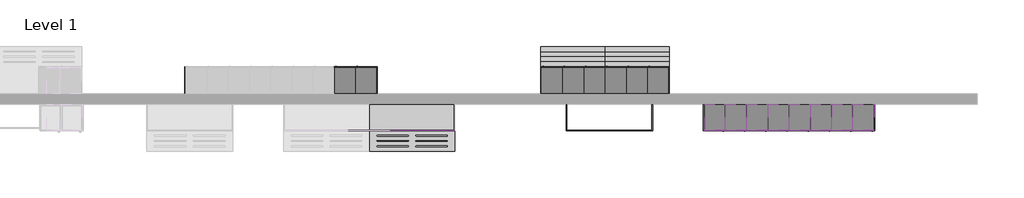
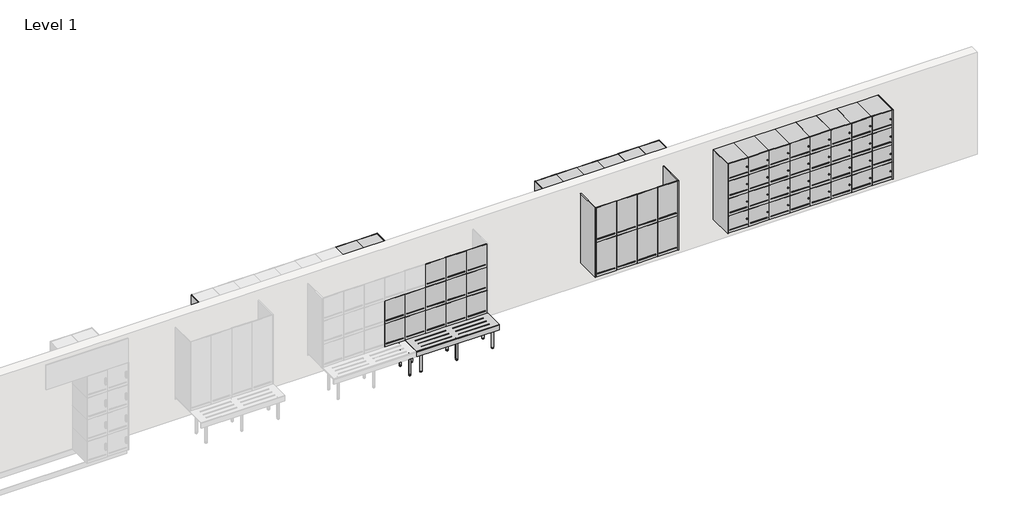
# One storey, part 3 of 3: 131 furniture elements.
"""IFC4 building model written with IfcOpenShell, lengths in millimetres."""

from ifc_helpers import new_model, si_unit, origin, place, context, project, spatial, transform, mapped, element, save
from components import furniture_7293fc8f, furniture_05545089, furniture_83d2262f, furniture_6c30b95b, standard_2dcb62da, standard_f5ae554c, standard_45df0485, standard_98e0e482, standard_13bdcb3e, standard_06cb4884, standard_31d623df, standard_40445af7, standard_a614ba5f, standard_bf09c246, standard_42a54a5f, standard_04b66620

model = new_model("IFC4")

# Units and contexts
model_context = context("Model", 3, world=origin())
ifc_project = project(units=[si_unit("LENGTHUNIT", "METRE", prefix="MILLI")], contexts=[model_context])

# Site, building, storey
site = spatial("IfcSite", under=ifc_project)
building = spatial("IfcBuilding", under=site)
storey = spatial("IfcBuildingStorey", under=building, Name="Level 1", Elevation=0.0)

# Furniture
placement = place(None, origin())
furniture_shape = furniture_7293fc8f(model_context)
element("IfcFurniture", 1, ObjectType="Lockers-Bay-Duracube-Duraloc : LWM-1900h x 500d x 400w @ 470h Wall", at=placement, inside=storey, context=model_context, shape_type="MappedRepresentation", body=[
    mapped(furniture_shape, transform((4264.8424585, 2567.7422336, 0.0), x_axis=(1.0, 0.0, 0.0), y_axis=(0.0, 1.0, 0.0), z_axis=(0.0, 0.0, 1.0))),
])
furniture_2_shape = furniture_05545089(model_context)
element("IfcFurniture", 2, ObjectType="Lockers-Bay-Duracube-Duraloc : LWM-1900h x 500d x 400w @ 470h Wall", at=placement, inside=storey, context=model_context, shape_type="MappedRepresentation", body=[
    mapped(furniture_2_shape, transform((6844.8424585, 2567.7422336, 0.0), x_axis=(1.0, 0.0, 0.0), y_axis=(0.0, 1.0, 0.0), z_axis=(0.0, 0.0, 1.0))),
])
furniture_3_shape = furniture_83d2262f(model_context)
element("IfcFurniture", 3, ObjectType="Lockers-Bay-Duracube-Duraloc : LSBM-1900h x 500d x 400w with 470h Shoe Box Mount", at=placement, inside=storey, context=model_context, shape_type="MappedRepresentation", body=[
    mapped(furniture_3_shape, transform((706.8576586, 3267.7422336, 0.0), x_axis=(-1.0, 0.0, 0.0), y_axis=(0.0, -1.0, 0.0), z_axis=(0.0, 0.0, 1.0))),
])
furniture_4_shape = furniture_6c30b95b(model_context)
element("IfcFurniture", 4, ObjectType="Lockers-Bay-Duracube-Duraloc : LSBSM-1900h x 500d x 400w with 470h Shoe Box Bench", at=placement, inside=storey, context=model_context, shape_type="MappedRepresentation", body=[
    mapped(furniture_4_shape, transform((6206.8576586, 3267.7422336, 0.0), x_axis=(-1.0, 0.0, 0.0), y_axis=(0.0, -1.0, 0.0), z_axis=(0.0, 0.0, 1.0))),
])
standard_shape = standard_2dcb62da(model_context)
element("IfcFurniture", 5, ObjectType="X_Bench-Foot-Duracube-Wall Assembly : Standard", at=placement, inside=storey, context=model_context, shape_type="MappedRepresentation", body=[
    mapped(standard_shape, transform((626.642132, 2317.7422336, 0.0), x_axis=(1.0, 0.0, 0.0), y_axis=(0.0, 1.0, 0.0), z_axis=(0.0, 0.0, 1.0))),
])
element("IfcFurniture", 6, ObjectType="X_Bench-Foot-Duracube-Wall Assembly : Standard", at=placement, inside=storey, context=model_context, shape_type="MappedRepresentation", body=[
    mapped(standard_shape, transform((1319.642132, 2317.7422336, 0.0), x_axis=(1.0, 0.0, 0.0), y_axis=(0.0, 1.0, 0.0), z_axis=(0.0, 0.0, 1.0))),
])
standard_2_shape = standard_f5ae554c(model_context)
element("IfcFurniture", 7, ObjectType="X_Bench-Foot-Duracube-Wall Assembly : Standard", at=placement, inside=storey, context=model_context, shape_type="MappedRepresentation", body=[
    mapped(standard_2_shape, transform((2102.0427849, 2317.7422336, 0.0), x_axis=(-1.0, 0.0, 0.0), y_axis=(0.0, -1.0, 0.0), z_axis=(0.0, 0.0, 1.0))),
])
element("IfcFurniture", 8, ObjectType="X_Bench-Foot-Duracube-Wall Assembly : Standard", at=placement, inside=storey, context=model_context, shape_type="MappedRepresentation", body=[
    mapped(standard_2_shape, transform((489.0427849, 2317.7422336, 0.0), x_axis=(-1.0, 0.0, 0.0), y_axis=(0.0, -1.0, 0.0), z_axis=(0.0, 0.0, 1.0))),
])
standard_3_shape = standard_45df0485(model_context)
element("IfcFurniture", 9, ObjectType="X_Vanity-Angle-Duracube-Bench Support : Standard", at=placement, inside=storey, context=model_context, shape_type="MappedRepresentation", body=[
    mapped(standard_3_shape, transform((1319.642132, 2817.7422336, 417.0), x_axis=(1.0, 0.0, 0.0), y_axis=(0.0, 1.0, 0.0), z_axis=(0.0, 0.0, 1.0))),
])
standard_4_shape = standard_98e0e482(model_context)
element("IfcFurniture", 10, ObjectType="X_Bench-Wall-Duracube-Locker : Standard", at=placement, inside=storey, context=model_context, shape_type="MappedRepresentation", body=[
    mapped(standard_4_shape, transform((1319.642132, 2725.2422336, 0.0), x_axis=(1.0, 0.0, 0.0), y_axis=(0.0, 1.0, 0.0), z_axis=(0.0, 0.0, 1.0))),
])
standard_5_shape = standard_13bdcb3e(model_context)
element("IfcFurniture", 11, ObjectType="X_Vanity-Angle-Duracube-Bench Support : Standard", at=placement, inside=storey, context=model_context, shape_type="MappedRepresentation", body=[
    mapped(standard_5_shape, transform((5645.057985, 3017.7422336, 430.0), x_axis=(-1.0, 0.0, 0.0), y_axis=(0.0, -1.0, 0.0), z_axis=(0.0, 0.0, 1.0))),
])
element("IfcFurniture", 12, ObjectType="X_Vanity-Angle-Duracube-Bench Support : Standard", at=placement, inside=storey, context=model_context, shape_type="MappedRepresentation", body=[
    mapped(standard_5_shape, transform((4432.057985, 3017.7422336, 430.0), x_axis=(-1.0, 0.0, 0.0), y_axis=(0.0, -1.0, 0.0), z_axis=(0.0, 0.0, 1.0))),
])
standard_6_shape = standard_06cb4884(model_context)
element("IfcFurniture", 13, ObjectType="X_Locker-Duracube-Door : Standard", at=placement, inside=storey, context=model_context, shape_type="MappedRepresentation", body=[
    mapped(standard_6_shape, transform((1913.142132, 2330.7422336, 1423.3333333), x_axis=(1.0, 0.0, 0.0), y_axis=(0.0, 1.0, 0.0), z_axis=(0.0, 0.0, 1.0))),
])
element("IfcFurniture", 14, ObjectType="X_Locker-Duracube-Door : Standard", at=placement, inside=storey, context=model_context, shape_type="MappedRepresentation", body=[
    mapped(standard_6_shape, transform((1513.142132, 2330.7422336, 1423.3333333), x_axis=(1.0, 0.0, 0.0), y_axis=(0.0, 1.0, 0.0), z_axis=(0.0, 0.0, 1.0))),
])
element("IfcFurniture", 15, ObjectType="X_Locker-Duracube-Door : Standard", at=placement, inside=storey, context=model_context, shape_type="MappedRepresentation", body=[
    mapped(standard_6_shape, transform((1113.142132, 2330.7422336, 1423.3333333), x_axis=(1.0, 0.0, 0.0), y_axis=(0.0, 1.0, 0.0), z_axis=(0.0, 0.0, 1.0))),
])
element("IfcFurniture", 16, ObjectType="X_Locker-Duracube-Door : Standard", at=placement, inside=storey, context=model_context, shape_type="MappedRepresentation", body=[
    mapped(standard_6_shape, transform((1913.142132, 2330.7422336, 946.6666667), x_axis=(1.0, 0.0, 0.0), y_axis=(0.0, 1.0, 0.0), z_axis=(0.0, 0.0, 1.0))),
])
element("IfcFurniture", 17, ObjectType="X_Locker-Duracube-Door : Standard", at=placement, inside=storey, context=model_context, shape_type="MappedRepresentation", body=[
    mapped(standard_6_shape, transform((1513.142132, 2330.7422336, 946.6666667), x_axis=(1.0, 0.0, 0.0), y_axis=(0.0, 1.0, 0.0), z_axis=(0.0, 0.0, 1.0))),
])
element("IfcFurniture", 18, ObjectType="X_Locker-Duracube-Door : Standard", at=placement, inside=storey, context=model_context, shape_type="MappedRepresentation", body=[
    mapped(standard_6_shape, transform((1113.142132, 2330.7422336, 946.6666667), x_axis=(1.0, 0.0, 0.0), y_axis=(0.0, 1.0, 0.0), z_axis=(0.0, 0.0, 1.0))),
])
element("IfcFurniture", 19, ObjectType="X_Locker-Duracube-Door : Standard", at=placement, inside=storey, context=model_context, shape_type="MappedRepresentation", body=[
    mapped(standard_6_shape, transform((713.142132, 2330.7422336, 946.6666667), x_axis=(1.0, 0.0, 0.0), y_axis=(0.0, 1.0, 0.0), z_axis=(0.0, 0.0, 1.0))),
])
element("IfcFurniture", 20, ObjectType="X_Locker-Duracube-Door : Standard", at=placement, inside=storey, context=model_context, shape_type="MappedRepresentation", body=[
    mapped(standard_6_shape, transform((313.142132, 2330.7422336, 946.6666667), x_axis=(1.0, 0.0, 0.0), y_axis=(0.0, 1.0, 0.0), z_axis=(0.0, 0.0, 1.0))),
])
element("IfcFurniture", 21, ObjectType="X_Locker-Duracube-Door : Standard", at=placement, inside=storey, context=model_context, shape_type="MappedRepresentation", body=[
    mapped(standard_6_shape, transform((1913.142132, 2330.7422336, 470.0), x_axis=(1.0, 0.0, 0.0), y_axis=(0.0, 1.0, 0.0), z_axis=(0.0, 0.0, 1.0))),
])
element("IfcFurniture", 22, ObjectType="X_Locker-Duracube-Door : Standard", at=placement, inside=storey, context=model_context, shape_type="MappedRepresentation", body=[
    mapped(standard_6_shape, transform((1513.142132, 2330.7422336, 470.0), x_axis=(1.0, 0.0, 0.0), y_axis=(0.0, 1.0, 0.0), z_axis=(0.0, 0.0, 1.0))),
])
element("IfcFurniture", 23, ObjectType="X_Locker-Duracube-Door : Standard", at=placement, inside=storey, context=model_context, shape_type="MappedRepresentation", body=[
    mapped(standard_6_shape, transform((1113.142132, 2330.7422336, 470.0), x_axis=(1.0, 0.0, 0.0), y_axis=(0.0, 1.0, 0.0), z_axis=(0.0, 0.0, 1.0))),
])
element("IfcFurniture", 24, ObjectType="X_Locker-Duracube-Door : Standard", at=placement, inside=storey, context=model_context, shape_type="MappedRepresentation", body=[
    mapped(standard_6_shape, transform((713.142132, 2330.7422336, 470.0), x_axis=(1.0, 0.0, 0.0), y_axis=(0.0, 1.0, 0.0), z_axis=(0.0, 0.0, 1.0))),
])
element("IfcFurniture", 25, ObjectType="X_Locker-Duracube-Door : Standard", at=placement, inside=storey, context=model_context, shape_type="MappedRepresentation", body=[
    mapped(standard_6_shape, transform((313.142132, 2330.7422336, 470.0), x_axis=(1.0, 0.0, 0.0), y_axis=(0.0, 1.0, 0.0), z_axis=(0.0, 0.0, 1.0))),
])
standard_7_shape = standard_31d623df(model_context)
element("IfcFurniture", 26, ObjectType="X_Locker-Duracube-Door : Standard", at=placement, inside=storey, context=model_context, shape_type="MappedRepresentation", body=[
    mapped(standard_7_shape, transform((5633.142132, 2330.7422336, 1185.0), x_axis=(1.0, 0.0, 0.0), y_axis=(0.0, 1.0, 0.0), z_axis=(0.0, 0.0, 1.0))),
])
element("IfcFurniture", 27, ObjectType="X_Locker-Duracube-Door : Standard", at=placement, inside=storey, context=model_context, shape_type="MappedRepresentation", body=[
    mapped(standard_7_shape, transform((5233.142132, 2330.7422336, 1185.0), x_axis=(1.0, 0.0, 0.0), y_axis=(0.0, 1.0, 0.0), z_axis=(0.0, 0.0, 1.0))),
])
element("IfcFurniture", 28, ObjectType="X_Locker-Duracube-Door : Standard", at=placement, inside=storey, context=model_context, shape_type="MappedRepresentation", body=[
    mapped(standard_7_shape, transform((5633.142132, 2330.7422336, 470.0), x_axis=(1.0, 0.0, 0.0), y_axis=(0.0, 1.0, 0.0), z_axis=(0.0, 0.0, 1.0))),
])
element("IfcFurniture", 29, ObjectType="X_Locker-Duracube-Door : Standard", at=placement, inside=storey, context=model_context, shape_type="MappedRepresentation", body=[
    mapped(standard_7_shape, transform((5233.142132, 2330.7422336, 470.0), x_axis=(1.0, 0.0, 0.0), y_axis=(0.0, 1.0, 0.0), z_axis=(0.0, 0.0, 1.0))),
])
element("IfcFurniture", 30, ObjectType="X_Locker-Duracube-Door : Standard", at=placement, inside=storey, context=model_context, shape_type="MappedRepresentation", body=[
    mapped(standard_7_shape, transform((4833.142132, 2330.7422336, 1185.0), x_axis=(1.0, 0.0, 0.0), y_axis=(0.0, 1.0, 0.0), z_axis=(0.0, 0.0, 1.0))),
])
element("IfcFurniture", 31, ObjectType="X_Locker-Duracube-Door : Standard", at=placement, inside=storey, context=model_context, shape_type="MappedRepresentation", body=[
    mapped(standard_7_shape, transform((4833.142132, 2330.7422336, 470.0), x_axis=(1.0, 0.0, 0.0), y_axis=(0.0, 1.0, 0.0), z_axis=(0.0, 0.0, 1.0))),
])
element("IfcFurniture", 32, ObjectType="X_Locker-Duracube-Door : Standard", at=placement, inside=storey, context=model_context, shape_type="MappedRepresentation", body=[
    mapped(standard_7_shape, transform((4433.142132, 2330.7422336, 1185.0), x_axis=(1.0, 0.0, 0.0), y_axis=(0.0, 1.0, 0.0), z_axis=(0.0, 0.0, 1.0))),
])
element("IfcFurniture", 33, ObjectType="X_Locker-Duracube-Door : Standard", at=placement, inside=storey, context=model_context, shape_type="MappedRepresentation", body=[
    mapped(standard_7_shape, transform((4433.142132, 2330.7422336, 470.0), x_axis=(1.0, 0.0, 0.0), y_axis=(0.0, 1.0, 0.0), z_axis=(0.0, 0.0, 1.0))),
])
element("IfcFurniture", 34, ObjectType="X_Locker-Duracube-Door : Standard", at=placement, inside=storey, context=model_context, shape_type="MappedRepresentation", body=[
    mapped(standard_7_shape, transform((138.557985, 3504.7422336, 1185.0), x_axis=(-1.0, 0.0, 0.0), y_axis=(0.0, -1.0, 0.0), z_axis=(0.0, 0.0, 1.0))),
])
element("IfcFurniture", 35, ObjectType="X_Locker-Duracube-Door : Standard", at=placement, inside=storey, context=model_context, shape_type="MappedRepresentation", body=[
    mapped(standard_7_shape, transform((138.557985, 3504.7422336, 470.0), x_axis=(-1.0, 0.0, 0.0), y_axis=(0.0, -1.0, 0.0), z_axis=(0.0, 0.0, 1.0))),
])
element("IfcFurniture", 36, ObjectType="X_Locker-Duracube-Door : Standard", at=placement, inside=storey, context=model_context, shape_type="MappedRepresentation", body=[
    mapped(standard_7_shape, transform((538.557985, 3504.7422336, 1185.0), x_axis=(-1.0, 0.0, 0.0), y_axis=(0.0, -1.0, 0.0), z_axis=(0.0, 0.0, 1.0))),
])
element("IfcFurniture", 37, ObjectType="X_Locker-Duracube-Door : Standard", at=placement, inside=storey, context=model_context, shape_type="MappedRepresentation", body=[
    mapped(standard_7_shape, transform((538.557985, 3504.7422336, 470.0), x_axis=(-1.0, 0.0, 0.0), y_axis=(0.0, -1.0, 0.0), z_axis=(0.0, 0.0, 1.0))),
])
element("IfcFurniture", 38, ObjectType="X_Locker-Duracube-Door : Standard", at=placement, inside=storey, context=model_context, shape_type="MappedRepresentation", body=[
    mapped(standard_7_shape, transform((4038.557985, 3504.7422336, 1185.0), x_axis=(-1.0, 0.0, 0.0), y_axis=(0.0, -1.0, 0.0), z_axis=(0.0, 0.0, 1.0))),
])
element("IfcFurniture", 39, ObjectType="X_Locker-Duracube-Door : Standard", at=placement, inside=storey, context=model_context, shape_type="MappedRepresentation", body=[
    mapped(standard_7_shape, transform((4438.557985, 3504.7422336, 1185.0), x_axis=(-1.0, 0.0, 0.0), y_axis=(0.0, -1.0, 0.0), z_axis=(0.0, 0.0, 1.0))),
])
element("IfcFurniture", 40, ObjectType="X_Locker-Duracube-Door : Standard", at=placement, inside=storey, context=model_context, shape_type="MappedRepresentation", body=[
    mapped(standard_7_shape, transform((4838.557985, 3504.7422336, 1185.0), x_axis=(-1.0, 0.0, 0.0), y_axis=(0.0, -1.0, 0.0), z_axis=(0.0, 0.0, 1.0))),
])
element("IfcFurniture", 41, ObjectType="X_Locker-Duracube-Door : Standard", at=placement, inside=storey, context=model_context, shape_type="MappedRepresentation", body=[
    mapped(standard_7_shape, transform((5238.557985, 3504.7422336, 1185.0), x_axis=(-1.0, 0.0, 0.0), y_axis=(0.0, -1.0, 0.0), z_axis=(0.0, 0.0, 1.0))),
])
element("IfcFurniture", 42, ObjectType="X_Locker-Duracube-Door : Standard", at=placement, inside=storey, context=model_context, shape_type="MappedRepresentation", body=[
    mapped(standard_7_shape, transform((4038.557985, 3504.7422336, 470.0), x_axis=(-1.0, 0.0, 0.0), y_axis=(0.0, -1.0, 0.0), z_axis=(0.0, 0.0, 1.0))),
])
element("IfcFurniture", 43, ObjectType="X_Locker-Duracube-Door : Standard", at=placement, inside=storey, context=model_context, shape_type="MappedRepresentation", body=[
    mapped(standard_7_shape, transform((4438.557985, 3504.7422336, 470.0), x_axis=(-1.0, 0.0, 0.0), y_axis=(0.0, -1.0, 0.0), z_axis=(0.0, 0.0, 1.0))),
])
element("IfcFurniture", 44, ObjectType="X_Locker-Duracube-Door : Standard", at=placement, inside=storey, context=model_context, shape_type="MappedRepresentation", body=[
    mapped(standard_7_shape, transform((4838.557985, 3504.7422336, 470.0), x_axis=(-1.0, 0.0, 0.0), y_axis=(0.0, -1.0, 0.0), z_axis=(0.0, 0.0, 1.0))),
])
element("IfcFurniture", 45, ObjectType="X_Locker-Duracube-Door : Standard", at=placement, inside=storey, context=model_context, shape_type="MappedRepresentation", body=[
    mapped(standard_7_shape, transform((5238.557985, 3504.7422336, 470.0), x_axis=(-1.0, 0.0, 0.0), y_axis=(0.0, -1.0, 0.0), z_axis=(0.0, 0.0, 1.0))),
])
element("IfcFurniture", 46, ObjectType="X_Locker-Duracube-Door : Standard", at=placement, inside=storey, context=model_context, shape_type="MappedRepresentation", body=[
    mapped(standard_7_shape, transform((5638.557985, 3504.7422336, 1185.0), x_axis=(-1.0, 0.0, 0.0), y_axis=(0.0, -1.0, 0.0), z_axis=(0.0, 0.0, 1.0))),
])
element("IfcFurniture", 47, ObjectType="X_Locker-Duracube-Door : Standard", at=placement, inside=storey, context=model_context, shape_type="MappedRepresentation", body=[
    mapped(standard_7_shape, transform((5638.557985, 3504.7422336, 470.0), x_axis=(-1.0, 0.0, 0.0), y_axis=(0.0, -1.0, 0.0), z_axis=(0.0, 0.0, 1.0))),
])
element("IfcFurniture", 48, ObjectType="X_Locker-Duracube-Door : Standard", at=placement, inside=storey, context=model_context, shape_type="MappedRepresentation", body=[
    mapped(standard_7_shape, transform((6038.557985, 3504.7422336, 1185.0), x_axis=(-1.0, 0.0, 0.0), y_axis=(0.0, -1.0, 0.0), z_axis=(0.0, 0.0, 1.0))),
])
element("IfcFurniture", 49, ObjectType="X_Locker-Duracube-Door : Standard", at=placement, inside=storey, context=model_context, shape_type="MappedRepresentation", body=[
    mapped(standard_7_shape, transform((6038.557985, 3504.7422336, 470.0), x_axis=(-1.0, 0.0, 0.0), y_axis=(0.0, -1.0, 0.0), z_axis=(0.0, 0.0, 1.0))),
])
standard_8_shape = standard_40445af7(model_context)
element("IfcFurniture", 50, ObjectType="X_Locker-Duracube-Bay : Standard", at=placement, inside=storey, context=model_context, shape_type="MappedRepresentation", body=[
    mapped(standard_8_shape, transform((9813.142132, 2817.7422336, 1542.5), x_axis=(1.0, 0.0, 0.0), y_axis=(0.0, 1.0, 0.0), z_axis=(0.0, 0.0, 1.0))),
])
element("IfcFurniture", 51, ObjectType="X_Locker-Duracube-Bay : Standard", at=placement, inside=storey, context=model_context, shape_type="MappedRepresentation", body=[
    mapped(standard_8_shape, transform((9413.142132, 2817.7422336, 1542.5), x_axis=(1.0, 0.0, 0.0), y_axis=(0.0, 1.0, 0.0), z_axis=(0.0, 0.0, 1.0))),
])
element("IfcFurniture", 52, ObjectType="X_Locker-Duracube-Bay : Standard", at=placement, inside=storey, context=model_context, shape_type="MappedRepresentation", body=[
    mapped(standard_8_shape, transform((9013.142132, 2817.7422336, 1542.5), x_axis=(1.0, 0.0, 0.0), y_axis=(0.0, 1.0, 0.0), z_axis=(0.0, 0.0, 1.0))),
])
element("IfcFurniture", 53, ObjectType="X_Locker-Duracube-Bay : Standard", at=placement, inside=storey, context=model_context, shape_type="MappedRepresentation", body=[
    mapped(standard_8_shape, transform((8613.142132, 2817.7422336, 1542.5), x_axis=(1.0, 0.0, 0.0), y_axis=(0.0, 1.0, 0.0), z_axis=(0.0, 0.0, 1.0))),
])
element("IfcFurniture", 54, ObjectType="X_Locker-Duracube-Bay : Standard", at=placement, inside=storey, context=model_context, shape_type="MappedRepresentation", body=[
    mapped(standard_8_shape, transform((8213.142132, 2817.7422336, 1542.5), x_axis=(1.0, 0.0, 0.0), y_axis=(0.0, 1.0, 0.0), z_axis=(0.0, 0.0, 1.0))),
])
element("IfcFurniture", 55, ObjectType="X_Locker-Duracube-Bay : Standard", at=placement, inside=storey, context=model_context, shape_type="MappedRepresentation", body=[
    mapped(standard_8_shape, transform((7813.142132, 2817.7422336, 1542.5), x_axis=(1.0, 0.0, 0.0), y_axis=(0.0, 1.0, 0.0), z_axis=(0.0, 0.0, 1.0))),
])
element("IfcFurniture", 56, ObjectType="X_Locker-Duracube-Bay : Standard", at=placement, inside=storey, context=model_context, shape_type="MappedRepresentation", body=[
    mapped(standard_8_shape, transform((9813.142132, 2817.7422336, 1185.0), x_axis=(1.0, 0.0, 0.0), y_axis=(0.0, 1.0, 0.0), z_axis=(0.0, 0.0, 1.0))),
])
element("IfcFurniture", 57, ObjectType="X_Locker-Duracube-Bay : Standard", at=placement, inside=storey, context=model_context, shape_type="MappedRepresentation", body=[
    mapped(standard_8_shape, transform((9413.142132, 2817.7422336, 1185.0), x_axis=(1.0, 0.0, 0.0), y_axis=(0.0, 1.0, 0.0), z_axis=(0.0, 0.0, 1.0))),
])
element("IfcFurniture", 58, ObjectType="X_Locker-Duracube-Bay : Standard", at=placement, inside=storey, context=model_context, shape_type="MappedRepresentation", body=[
    mapped(standard_8_shape, transform((9013.142132, 2817.7422336, 1185.0), x_axis=(1.0, 0.0, 0.0), y_axis=(0.0, 1.0, 0.0), z_axis=(0.0, 0.0, 1.0))),
])
element("IfcFurniture", 59, ObjectType="X_Locker-Duracube-Bay : Standard", at=placement, inside=storey, context=model_context, shape_type="MappedRepresentation", body=[
    mapped(standard_8_shape, transform((8613.142132, 2817.7422336, 1185.0), x_axis=(1.0, 0.0, 0.0), y_axis=(0.0, 1.0, 0.0), z_axis=(0.0, 0.0, 1.0))),
])
element("IfcFurniture", 60, ObjectType="X_Locker-Duracube-Bay : Standard", at=placement, inside=storey, context=model_context, shape_type="MappedRepresentation", body=[
    mapped(standard_8_shape, transform((8213.142132, 2817.7422336, 1185.0), x_axis=(1.0, 0.0, 0.0), y_axis=(0.0, 1.0, 0.0), z_axis=(0.0, 0.0, 1.0))),
])
element("IfcFurniture", 61, ObjectType="X_Locker-Duracube-Bay : Standard", at=placement, inside=storey, context=model_context, shape_type="MappedRepresentation", body=[
    mapped(standard_8_shape, transform((7813.142132, 2817.7422336, 1185.0), x_axis=(1.0, 0.0, 0.0), y_axis=(0.0, 1.0, 0.0), z_axis=(0.0, 0.0, 1.0))),
])
element("IfcFurniture", 62, ObjectType="X_Locker-Duracube-Bay : Standard", at=placement, inside=storey, context=model_context, shape_type="MappedRepresentation", body=[
    mapped(standard_8_shape, transform((9813.142132, 2817.7422336, 827.5), x_axis=(1.0, 0.0, 0.0), y_axis=(0.0, 1.0, 0.0), z_axis=(0.0, 0.0, 1.0))),
])
element("IfcFurniture", 63, ObjectType="X_Locker-Duracube-Bay : Standard", at=placement, inside=storey, context=model_context, shape_type="MappedRepresentation", body=[
    mapped(standard_8_shape, transform((9413.142132, 2817.7422336, 827.5), x_axis=(1.0, 0.0, 0.0), y_axis=(0.0, 1.0, 0.0), z_axis=(0.0, 0.0, 1.0))),
])
element("IfcFurniture", 64, ObjectType="X_Locker-Duracube-Bay : Standard", at=placement, inside=storey, context=model_context, shape_type="MappedRepresentation", body=[
    mapped(standard_8_shape, transform((9013.142132, 2817.7422336, 827.5), x_axis=(1.0, 0.0, 0.0), y_axis=(0.0, 1.0, 0.0), z_axis=(0.0, 0.0, 1.0))),
])
element("IfcFurniture", 65, ObjectType="X_Locker-Duracube-Bay : Standard", at=placement, inside=storey, context=model_context, shape_type="MappedRepresentation", body=[
    mapped(standard_8_shape, transform((8613.142132, 2817.7422336, 827.5), x_axis=(1.0, 0.0, 0.0), y_axis=(0.0, 1.0, 0.0), z_axis=(0.0, 0.0, 1.0))),
])
element("IfcFurniture", 66, ObjectType="X_Locker-Duracube-Bay : Standard", at=placement, inside=storey, context=model_context, shape_type="MappedRepresentation", body=[
    mapped(standard_8_shape, transform((8213.142132, 2817.7422336, 827.5), x_axis=(1.0, 0.0, 0.0), y_axis=(0.0, 1.0, 0.0), z_axis=(0.0, 0.0, 1.0))),
])
element("IfcFurniture", 67, ObjectType="X_Locker-Duracube-Bay : Standard", at=placement, inside=storey, context=model_context, shape_type="MappedRepresentation", body=[
    mapped(standard_8_shape, transform((7813.142132, 2817.7422336, 827.5), x_axis=(1.0, 0.0, 0.0), y_axis=(0.0, 1.0, 0.0), z_axis=(0.0, 0.0, 1.0))),
])
element("IfcFurniture", 68, ObjectType="X_Locker-Duracube-Bay : Standard", at=placement, inside=storey, context=model_context, shape_type="MappedRepresentation", body=[
    mapped(standard_8_shape, transform((9813.142132, 2817.7422336, 470.0), x_axis=(1.0, 0.0, 0.0), y_axis=(0.0, 1.0, 0.0), z_axis=(0.0, 0.0, 1.0))),
])
element("IfcFurniture", 69, ObjectType="X_Locker-Duracube-Bay : Standard", at=placement, inside=storey, context=model_context, shape_type="MappedRepresentation", body=[
    mapped(standard_8_shape, transform((9413.142132, 2817.7422336, 470.0), x_axis=(1.0, 0.0, 0.0), y_axis=(0.0, 1.0, 0.0), z_axis=(0.0, 0.0, 1.0))),
])
element("IfcFurniture", 70, ObjectType="X_Locker-Duracube-Bay : Standard", at=placement, inside=storey, context=model_context, shape_type="MappedRepresentation", body=[
    mapped(standard_8_shape, transform((9013.142132, 2817.7422336, 470.0), x_axis=(1.0, 0.0, 0.0), y_axis=(0.0, 1.0, 0.0), z_axis=(0.0, 0.0, 1.0))),
])
element("IfcFurniture", 71, ObjectType="X_Locker-Duracube-Bay : Standard", at=placement, inside=storey, context=model_context, shape_type="MappedRepresentation", body=[
    mapped(standard_8_shape, transform((8613.142132, 2817.7422336, 470.0), x_axis=(1.0, 0.0, 0.0), y_axis=(0.0, 1.0, 0.0), z_axis=(0.0, 0.0, 1.0))),
])
element("IfcFurniture", 72, ObjectType="X_Locker-Duracube-Bay : Standard", at=placement, inside=storey, context=model_context, shape_type="MappedRepresentation", body=[
    mapped(standard_8_shape, transform((8213.142132, 2817.7422336, 470.0), x_axis=(1.0, 0.0, 0.0), y_axis=(0.0, 1.0, 0.0), z_axis=(0.0, 0.0, 1.0))),
])
element("IfcFurniture", 73, ObjectType="X_Locker-Duracube-Bay : Standard", at=placement, inside=storey, context=model_context, shape_type="MappedRepresentation", body=[
    mapped(standard_8_shape, transform((7813.142132, 2817.7422336, 470.0), x_axis=(1.0, 0.0, 0.0), y_axis=(0.0, 1.0, 0.0), z_axis=(0.0, 0.0, 1.0))),
])
element("IfcFurniture", 74, ObjectType="X_Locker-Duracube-Bay : Standard", at=placement, inside=storey, context=model_context, shape_type="MappedRepresentation", body=[
    mapped(standard_8_shape, transform((7413.142132, 2817.7422336, 1542.5), x_axis=(1.0, 0.0, 0.0), y_axis=(0.0, 1.0, 0.0), z_axis=(0.0, 0.0, 1.0))),
])
element("IfcFurniture", 75, ObjectType="X_Locker-Duracube-Bay : Standard", at=placement, inside=storey, context=model_context, shape_type="MappedRepresentation", body=[
    mapped(standard_8_shape, transform((7413.142132, 2817.7422336, 1185.0), x_axis=(1.0, 0.0, 0.0), y_axis=(0.0, 1.0, 0.0), z_axis=(0.0, 0.0, 1.0))),
])
element("IfcFurniture", 76, ObjectType="X_Locker-Duracube-Bay : Standard", at=placement, inside=storey, context=model_context, shape_type="MappedRepresentation", body=[
    mapped(standard_8_shape, transform((7413.142132, 2817.7422336, 827.5), x_axis=(1.0, 0.0, 0.0), y_axis=(0.0, 1.0, 0.0), z_axis=(0.0, 0.0, 1.0))),
])
element("IfcFurniture", 77, ObjectType="X_Locker-Duracube-Bay : Standard", at=placement, inside=storey, context=model_context, shape_type="MappedRepresentation", body=[
    mapped(standard_8_shape, transform((7413.142132, 2817.7422336, 470.0), x_axis=(1.0, 0.0, 0.0), y_axis=(0.0, 1.0, 0.0), z_axis=(0.0, 0.0, 1.0))),
])
element("IfcFurniture", 78, ObjectType="X_Locker-Duracube-Bay : Standard", at=placement, inside=storey, context=model_context, shape_type="MappedRepresentation", body=[
    mapped(standard_8_shape, transform((7013.142132, 2817.7422336, 1542.5), x_axis=(1.0, 0.0, 0.0), y_axis=(0.0, 1.0, 0.0), z_axis=(0.0, 0.0, 1.0))),
])
element("IfcFurniture", 79, ObjectType="X_Locker-Duracube-Bay : Standard", at=placement, inside=storey, context=model_context, shape_type="MappedRepresentation", body=[
    mapped(standard_8_shape, transform((7013.142132, 2817.7422336, 1185.0), x_axis=(1.0, 0.0, 0.0), y_axis=(0.0, 1.0, 0.0), z_axis=(0.0, 0.0, 1.0))),
])
element("IfcFurniture", 80, ObjectType="X_Locker-Duracube-Bay : Standard", at=placement, inside=storey, context=model_context, shape_type="MappedRepresentation", body=[
    mapped(standard_8_shape, transform((7013.142132, 2817.7422336, 827.5), x_axis=(1.0, 0.0, 0.0), y_axis=(0.0, 1.0, 0.0), z_axis=(0.0, 0.0, 1.0))),
])
element("IfcFurniture", 81, ObjectType="X_Locker-Duracube-Bay : Standard", at=placement, inside=storey, context=model_context, shape_type="MappedRepresentation", body=[
    mapped(standard_8_shape, transform((7013.142132, 2817.7422336, 470.0), x_axis=(1.0, 0.0, 0.0), y_axis=(0.0, 1.0, 0.0), z_axis=(0.0, 0.0, 1.0))),
])
standard_9_shape = standard_a614ba5f(model_context)
element("IfcFurniture", 82, ObjectType="X_Locker-Duracube-Door : Standard", at=placement, inside=storey, context=model_context, shape_type="MappedRepresentation", body=[
    mapped(standard_9_shape, transform((9813.142132, 2330.7422336, 1542.5), x_axis=(1.0, 0.0, 0.0), y_axis=(0.0, 1.0, 0.0), z_axis=(0.0, 0.0, 1.0))),
])
element("IfcFurniture", 83, ObjectType="X_Locker-Duracube-Door : Standard", at=placement, inside=storey, context=model_context, shape_type="MappedRepresentation", body=[
    mapped(standard_9_shape, transform((9413.142132, 2330.7422336, 1542.5), x_axis=(1.0, 0.0, 0.0), y_axis=(0.0, 1.0, 0.0), z_axis=(0.0, 0.0, 1.0))),
])
element("IfcFurniture", 84, ObjectType="X_Locker-Duracube-Door : Standard", at=placement, inside=storey, context=model_context, shape_type="MappedRepresentation", body=[
    mapped(standard_9_shape, transform((9013.142132, 2330.7422336, 1542.5), x_axis=(1.0, 0.0, 0.0), y_axis=(0.0, 1.0, 0.0), z_axis=(0.0, 0.0, 1.0))),
])
element("IfcFurniture", 85, ObjectType="X_Locker-Duracube-Door : Standard", at=placement, inside=storey, context=model_context, shape_type="MappedRepresentation", body=[
    mapped(standard_9_shape, transform((8613.142132, 2330.7422336, 1542.5), x_axis=(1.0, 0.0, 0.0), y_axis=(0.0, 1.0, 0.0), z_axis=(0.0, 0.0, 1.0))),
])
element("IfcFurniture", 86, ObjectType="X_Locker-Duracube-Door : Standard", at=placement, inside=storey, context=model_context, shape_type="MappedRepresentation", body=[
    mapped(standard_9_shape, transform((8213.142132, 2330.7422336, 1542.5), x_axis=(1.0, 0.0, 0.0), y_axis=(0.0, 1.0, 0.0), z_axis=(0.0, 0.0, 1.0))),
])
element("IfcFurniture", 87, ObjectType="X_Locker-Duracube-Door : Standard", at=placement, inside=storey, context=model_context, shape_type="MappedRepresentation", body=[
    mapped(standard_9_shape, transform((7813.142132, 2330.7422336, 1542.5), x_axis=(1.0, 0.0, 0.0), y_axis=(0.0, 1.0, 0.0), z_axis=(0.0, 0.0, 1.0))),
])
element("IfcFurniture", 88, ObjectType="X_Locker-Duracube-Door : Standard", at=placement, inside=storey, context=model_context, shape_type="MappedRepresentation", body=[
    mapped(standard_9_shape, transform((9813.142132, 2330.7422336, 1185.0), x_axis=(1.0, 0.0, 0.0), y_axis=(0.0, 1.0, 0.0), z_axis=(0.0, 0.0, 1.0))),
])
element("IfcFurniture", 89, ObjectType="X_Locker-Duracube-Door : Standard", at=placement, inside=storey, context=model_context, shape_type="MappedRepresentation", body=[
    mapped(standard_9_shape, transform((9413.142132, 2330.7422336, 1185.0), x_axis=(1.0, 0.0, 0.0), y_axis=(0.0, 1.0, 0.0), z_axis=(0.0, 0.0, 1.0))),
])
element("IfcFurniture", 90, ObjectType="X_Locker-Duracube-Door : Standard", at=placement, inside=storey, context=model_context, shape_type="MappedRepresentation", body=[
    mapped(standard_9_shape, transform((9013.142132, 2330.7422336, 1185.0), x_axis=(1.0, 0.0, 0.0), y_axis=(0.0, 1.0, 0.0), z_axis=(0.0, 0.0, 1.0))),
])
element("IfcFurniture", 91, ObjectType="X_Locker-Duracube-Door : Standard", at=placement, inside=storey, context=model_context, shape_type="MappedRepresentation", body=[
    mapped(standard_9_shape, transform((8613.142132, 2330.7422336, 1185.0), x_axis=(1.0, 0.0, 0.0), y_axis=(0.0, 1.0, 0.0), z_axis=(0.0, 0.0, 1.0))),
])
element("IfcFurniture", 92, ObjectType="X_Locker-Duracube-Door : Standard", at=placement, inside=storey, context=model_context, shape_type="MappedRepresentation", body=[
    mapped(standard_9_shape, transform((8213.142132, 2330.7422336, 1185.0), x_axis=(1.0, 0.0, 0.0), y_axis=(0.0, 1.0, 0.0), z_axis=(0.0, 0.0, 1.0))),
])
element("IfcFurniture", 93, ObjectType="X_Locker-Duracube-Door : Standard", at=placement, inside=storey, context=model_context, shape_type="MappedRepresentation", body=[
    mapped(standard_9_shape, transform((7813.142132, 2330.7422336, 1185.0), x_axis=(1.0, 0.0, 0.0), y_axis=(0.0, 1.0, 0.0), z_axis=(0.0, 0.0, 1.0))),
])
element("IfcFurniture", 94, ObjectType="X_Locker-Duracube-Door : Standard", at=placement, inside=storey, context=model_context, shape_type="MappedRepresentation", body=[
    mapped(standard_9_shape, transform((9813.142132, 2330.7422336, 827.5), x_axis=(1.0, 0.0, 0.0), y_axis=(0.0, 1.0, 0.0), z_axis=(0.0, 0.0, 1.0))),
])
element("IfcFurniture", 95, ObjectType="X_Locker-Duracube-Door : Standard", at=placement, inside=storey, context=model_context, shape_type="MappedRepresentation", body=[
    mapped(standard_9_shape, transform((9413.142132, 2330.7422336, 827.5), x_axis=(1.0, 0.0, 0.0), y_axis=(0.0, 1.0, 0.0), z_axis=(0.0, 0.0, 1.0))),
])
element("IfcFurniture", 96, ObjectType="X_Locker-Duracube-Door : Standard", at=placement, inside=storey, context=model_context, shape_type="MappedRepresentation", body=[
    mapped(standard_9_shape, transform((9013.142132, 2330.7422336, 827.5), x_axis=(1.0, 0.0, 0.0), y_axis=(0.0, 1.0, 0.0), z_axis=(0.0, 0.0, 1.0))),
])
element("IfcFurniture", 97, ObjectType="X_Locker-Duracube-Door : Standard", at=placement, inside=storey, context=model_context, shape_type="MappedRepresentation", body=[
    mapped(standard_9_shape, transform((8613.142132, 2330.7422336, 827.5), x_axis=(1.0, 0.0, 0.0), y_axis=(0.0, 1.0, 0.0), z_axis=(0.0, 0.0, 1.0))),
])
element("IfcFurniture", 98, ObjectType="X_Locker-Duracube-Door : Standard", at=placement, inside=storey, context=model_context, shape_type="MappedRepresentation", body=[
    mapped(standard_9_shape, transform((8213.142132, 2330.7422336, 827.5), x_axis=(1.0, 0.0, 0.0), y_axis=(0.0, 1.0, 0.0), z_axis=(0.0, 0.0, 1.0))),
])
element("IfcFurniture", 99, ObjectType="X_Locker-Duracube-Door : Standard", at=placement, inside=storey, context=model_context, shape_type="MappedRepresentation", body=[
    mapped(standard_9_shape, transform((7813.142132, 2330.7422336, 827.5), x_axis=(1.0, 0.0, 0.0), y_axis=(0.0, 1.0, 0.0), z_axis=(0.0, 0.0, 1.0))),
])
element("IfcFurniture", 100, ObjectType="X_Locker-Duracube-Door : Standard", at=placement, inside=storey, context=model_context, shape_type="MappedRepresentation", body=[
    mapped(standard_9_shape, transform((9813.142132, 2330.7422336, 470.0), x_axis=(1.0, 0.0, 0.0), y_axis=(0.0, 1.0, 0.0), z_axis=(0.0, 0.0, 1.0))),
])
element("IfcFurniture", 101, ObjectType="X_Locker-Duracube-Door : Standard", at=placement, inside=storey, context=model_context, shape_type="MappedRepresentation", body=[
    mapped(standard_9_shape, transform((9413.142132, 2330.7422336, 470.0), x_axis=(1.0, 0.0, 0.0), y_axis=(0.0, 1.0, 0.0), z_axis=(0.0, 0.0, 1.0))),
])
element("IfcFurniture", 102, ObjectType="X_Locker-Duracube-Door : Standard", at=placement, inside=storey, context=model_context, shape_type="MappedRepresentation", body=[
    mapped(standard_9_shape, transform((9013.142132, 2330.7422336, 470.0), x_axis=(1.0, 0.0, 0.0), y_axis=(0.0, 1.0, 0.0), z_axis=(0.0, 0.0, 1.0))),
])
element("IfcFurniture", 103, ObjectType="X_Locker-Duracube-Door : Standard", at=placement, inside=storey, context=model_context, shape_type="MappedRepresentation", body=[
    mapped(standard_9_shape, transform((8613.142132, 2330.7422336, 470.0), x_axis=(1.0, 0.0, 0.0), y_axis=(0.0, 1.0, 0.0), z_axis=(0.0, 0.0, 1.0))),
])
element("IfcFurniture", 104, ObjectType="X_Locker-Duracube-Door : Standard", at=placement, inside=storey, context=model_context, shape_type="MappedRepresentation", body=[
    mapped(standard_9_shape, transform((8213.142132, 2330.7422336, 470.0), x_axis=(1.0, 0.0, 0.0), y_axis=(0.0, 1.0, 0.0), z_axis=(0.0, 0.0, 1.0))),
])
element("IfcFurniture", 105, ObjectType="X_Locker-Duracube-Door : Standard", at=placement, inside=storey, context=model_context, shape_type="MappedRepresentation", body=[
    mapped(standard_9_shape, transform((7813.142132, 2330.7422336, 470.0), x_axis=(1.0, 0.0, 0.0), y_axis=(0.0, 1.0, 0.0), z_axis=(0.0, 0.0, 1.0))),
])
element("IfcFurniture", 106, ObjectType="X_Locker-Duracube-Door : Standard", at=placement, inside=storey, context=model_context, shape_type="MappedRepresentation", body=[
    mapped(standard_9_shape, transform((7413.142132, 2330.7422336, 1542.5), x_axis=(1.0, 0.0, 0.0), y_axis=(0.0, 1.0, 0.0), z_axis=(0.0, 0.0, 1.0))),
])
element("IfcFurniture", 107, ObjectType="X_Locker-Duracube-Door : Standard", at=placement, inside=storey, context=model_context, shape_type="MappedRepresentation", body=[
    mapped(standard_9_shape, transform((7413.142132, 2330.7422336, 1185.0), x_axis=(1.0, 0.0, 0.0), y_axis=(0.0, 1.0, 0.0), z_axis=(0.0, 0.0, 1.0))),
])
element("IfcFurniture", 108, ObjectType="X_Locker-Duracube-Door : Standard", at=placement, inside=storey, context=model_context, shape_type="MappedRepresentation", body=[
    mapped(standard_9_shape, transform((7413.142132, 2330.7422336, 827.5), x_axis=(1.0, 0.0, 0.0), y_axis=(0.0, 1.0, 0.0), z_axis=(0.0, 0.0, 1.0))),
])
element("IfcFurniture", 109, ObjectType="X_Locker-Duracube-Door : Standard", at=placement, inside=storey, context=model_context, shape_type="MappedRepresentation", body=[
    mapped(standard_9_shape, transform((7413.142132, 2330.7422336, 470.0), x_axis=(1.0, 0.0, 0.0), y_axis=(0.0, 1.0, 0.0), z_axis=(0.0, 0.0, 1.0))),
])
element("IfcFurniture", 110, ObjectType="X_Locker-Duracube-Door : Standard", at=placement, inside=storey, context=model_context, shape_type="MappedRepresentation", body=[
    mapped(standard_9_shape, transform((7013.142132, 2330.7422336, 1542.5), x_axis=(1.0, 0.0, 0.0), y_axis=(0.0, 1.0, 0.0), z_axis=(0.0, 0.0, 1.0))),
])
element("IfcFurniture", 111, ObjectType="X_Locker-Duracube-Door : Standard", at=placement, inside=storey, context=model_context, shape_type="MappedRepresentation", body=[
    mapped(standard_9_shape, transform((7013.142132, 2330.7422336, 1185.0), x_axis=(1.0, 0.0, 0.0), y_axis=(0.0, 1.0, 0.0), z_axis=(0.0, 0.0, 1.0))),
])
element("IfcFurniture", 112, ObjectType="X_Locker-Duracube-Door : Standard", at=placement, inside=storey, context=model_context, shape_type="MappedRepresentation", body=[
    mapped(standard_9_shape, transform((7013.142132, 2330.7422336, 827.5), x_axis=(1.0, 0.0, 0.0), y_axis=(0.0, 1.0, 0.0), z_axis=(0.0, 0.0, 1.0))),
])
element("IfcFurniture", 113, ObjectType="X_Locker-Duracube-Door : Standard", at=placement, inside=storey, context=model_context, shape_type="MappedRepresentation", body=[
    mapped(standard_9_shape, transform((7013.142132, 2330.7422336, 470.0), x_axis=(1.0, 0.0, 0.0), y_axis=(0.0, 1.0, 0.0), z_axis=(0.0, 0.0, 1.0))),
])
standard_10_shape = standard_bf09c246(model_context)
element("IfcFurniture", 114, ObjectType="X_Locker-Duracube-Bay : Standard", at=placement, inside=storey, context=model_context, shape_type="MappedRepresentation", body=[
    mapped(standard_10_shape, transform((138.557985, 3017.7422336, 1185.0), x_axis=(-1.0, 0.0, 0.0), y_axis=(0.0, -1.0, 0.0), z_axis=(0.0, 0.0, 1.0))),
])
element("IfcFurniture", 115, ObjectType="X_Locker-Duracube-Bay : Standard", at=placement, inside=storey, context=model_context, shape_type="MappedRepresentation", body=[
    mapped(standard_10_shape, transform((138.557985, 3017.7422336, 470.0), x_axis=(-1.0, 0.0, 0.0), y_axis=(0.0, -1.0, 0.0), z_axis=(0.0, 0.0, 1.0))),
])
element("IfcFurniture", 116, ObjectType="X_Locker-Duracube-Bay : Standard", at=placement, inside=storey, context=model_context, shape_type="MappedRepresentation", body=[
    mapped(standard_10_shape, transform((538.557985, 3017.7422336, 1185.0), x_axis=(-1.0, 0.0, 0.0), y_axis=(0.0, -1.0, 0.0), z_axis=(0.0, 0.0, 1.0))),
])
element("IfcFurniture", 117, ObjectType="X_Locker-Duracube-Bay : Standard", at=placement, inside=storey, context=model_context, shape_type="MappedRepresentation", body=[
    mapped(standard_10_shape, transform((538.557985, 3017.7422336, 470.0), x_axis=(-1.0, 0.0, 0.0), y_axis=(0.0, -1.0, 0.0), z_axis=(0.0, 0.0, 1.0))),
])
element("IfcFurniture", 118, ObjectType="X_Locker-Duracube-Bay : Standard", at=placement, inside=storey, context=model_context, shape_type="MappedRepresentation", body=[
    mapped(standard_10_shape, transform((4038.557985, 3017.7422336, 1185.0), x_axis=(-1.0, 0.0, 0.0), y_axis=(0.0, -1.0, 0.0), z_axis=(0.0, 0.0, 1.0))),
])
element("IfcFurniture", 119, ObjectType="X_Locker-Duracube-Bay : Standard", at=placement, inside=storey, context=model_context, shape_type="MappedRepresentation", body=[
    mapped(standard_10_shape, transform((4438.557985, 3017.7422336, 1185.0), x_axis=(-1.0, 0.0, 0.0), y_axis=(0.0, -1.0, 0.0), z_axis=(0.0, 0.0, 1.0))),
])
element("IfcFurniture", 120, ObjectType="X_Locker-Duracube-Bay : Standard", at=placement, inside=storey, context=model_context, shape_type="MappedRepresentation", body=[
    mapped(standard_10_shape, transform((4838.557985, 3017.7422336, 1185.0), x_axis=(-1.0, 0.0, 0.0), y_axis=(0.0, -1.0, 0.0), z_axis=(0.0, 0.0, 1.0))),
])
element("IfcFurniture", 121, ObjectType="X_Locker-Duracube-Bay : Standard", at=placement, inside=storey, context=model_context, shape_type="MappedRepresentation", body=[
    mapped(standard_10_shape, transform((5238.557985, 3017.7422336, 1185.0), x_axis=(-1.0, 0.0, 0.0), y_axis=(0.0, -1.0, 0.0), z_axis=(0.0, 0.0, 1.0))),
])
element("IfcFurniture", 122, ObjectType="X_Locker-Duracube-Bay : Standard", at=placement, inside=storey, context=model_context, shape_type="MappedRepresentation", body=[
    mapped(standard_10_shape, transform((4038.557985, 3017.7422336, 470.0), x_axis=(-1.0, 0.0, 0.0), y_axis=(0.0, -1.0, 0.0), z_axis=(0.0, 0.0, 1.0))),
])
element("IfcFurniture", 123, ObjectType="X_Locker-Duracube-Bay : Standard", at=placement, inside=storey, context=model_context, shape_type="MappedRepresentation", body=[
    mapped(standard_10_shape, transform((4438.557985, 3017.7422336, 470.0), x_axis=(-1.0, 0.0, 0.0), y_axis=(0.0, -1.0, 0.0), z_axis=(0.0, 0.0, 1.0))),
])
element("IfcFurniture", 124, ObjectType="X_Locker-Duracube-Bay : Standard", at=placement, inside=storey, context=model_context, shape_type="MappedRepresentation", body=[
    mapped(standard_10_shape, transform((4838.557985, 3017.7422336, 470.0), x_axis=(-1.0, 0.0, 0.0), y_axis=(0.0, -1.0, 0.0), z_axis=(0.0, 0.0, 1.0))),
])
element("IfcFurniture", 125, ObjectType="X_Locker-Duracube-Bay : Standard", at=placement, inside=storey, context=model_context, shape_type="MappedRepresentation", body=[
    mapped(standard_10_shape, transform((5238.557985, 3017.7422336, 470.0), x_axis=(-1.0, 0.0, 0.0), y_axis=(0.0, -1.0, 0.0), z_axis=(0.0, 0.0, 1.0))),
])
element("IfcFurniture", 126, ObjectType="X_Locker-Duracube-Bay : Standard", at=placement, inside=storey, context=model_context, shape_type="MappedRepresentation", body=[
    mapped(standard_10_shape, transform((5638.557985, 3017.7422336, 1185.0), x_axis=(-1.0, 0.0, 0.0), y_axis=(0.0, -1.0, 0.0), z_axis=(0.0, 0.0, 1.0))),
])
element("IfcFurniture", 127, ObjectType="X_Locker-Duracube-Bay : Standard", at=placement, inside=storey, context=model_context, shape_type="MappedRepresentation", body=[
    mapped(standard_10_shape, transform((5638.557985, 3017.7422336, 470.0), x_axis=(-1.0, 0.0, 0.0), y_axis=(0.0, -1.0, 0.0), z_axis=(0.0, 0.0, 1.0))),
])
element("IfcFurniture", 128, ObjectType="X_Locker-Duracube-Bay : Standard", at=placement, inside=storey, context=model_context, shape_type="MappedRepresentation", body=[
    mapped(standard_10_shape, transform((6038.557985, 3017.7422336, 1185.0), x_axis=(-1.0, 0.0, 0.0), y_axis=(0.0, -1.0, 0.0), z_axis=(0.0, 0.0, 1.0))),
])
element("IfcFurniture", 129, ObjectType="X_Locker-Duracube-Bay : Standard", at=placement, inside=storey, context=model_context, shape_type="MappedRepresentation", body=[
    mapped(standard_10_shape, transform((6038.557985, 3017.7422336, 470.0), x_axis=(-1.0, 0.0, 0.0), y_axis=(0.0, -1.0, 0.0), z_axis=(0.0, 0.0, 1.0))),
])
standard_11_shape = standard_42a54a5f(model_context)
element("IfcFurniture", 130, ObjectType="X_Locker-Duracube-Shoe Box : Standard", at=placement, inside=storey, context=model_context, shape_type="MappedRepresentation", body=[
    mapped(standard_11_shape, transform((5645.057985, 3110.2422336, 0.0), x_axis=(-1.0, 0.0, 0.0), y_axis=(0.0, -1.0, 0.0), z_axis=(0.0, 0.0, 1.0))),
])
standard_12_shape = standard_04b66620(model_context)
element("IfcFurniture", 131, ObjectType="X_Locker-Duracube-Shoe Box : Standard", at=placement, inside=storey, context=model_context, shape_type="MappedRepresentation", body=[
    mapped(standard_12_shape, transform((4432.057985, 3110.2422336, 0.0), x_axis=(-1.0, 0.0, 0.0), y_axis=(0.0, -1.0, 0.0), z_axis=(0.0, 0.0, 1.0))),
])

save(model, "model.ifc")
